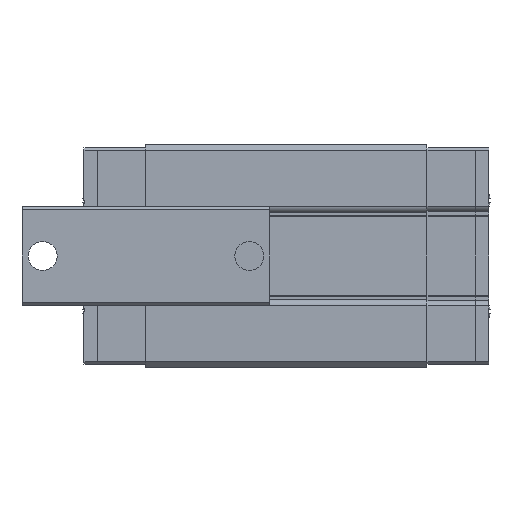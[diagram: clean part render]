
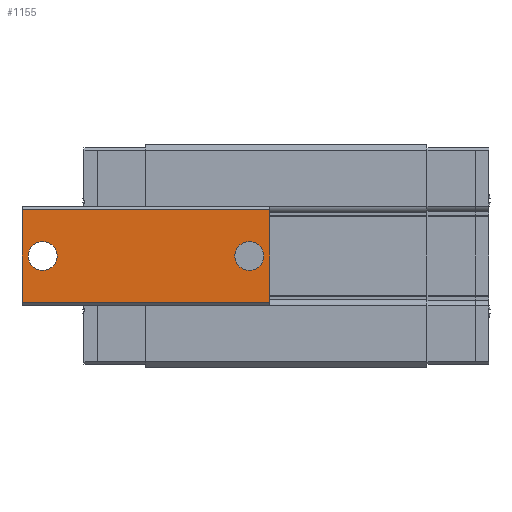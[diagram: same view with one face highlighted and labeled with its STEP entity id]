
A CAD part, front view. The second image highlights one B-rep face of the part: STEP entity #1155.
In plain terms, the highlighted planar face has unit normal (0, -1, 0).
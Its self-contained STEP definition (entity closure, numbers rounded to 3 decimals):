
#1155 = ADVANCED_FACE( '', ( #2340, #2341, #2342 ), #2343, .F. );
#2340 = FACE_BOUND( '', #3576, .T. );
#2341 = FACE_BOUND( '', #3577, .T. );
#2342 = FACE_OUTER_BOUND( '', #3578, .T. );
#2343 = PLANE( '', #3579 );
#3576 = EDGE_LOOP( '', ( #6754 ) );
#3577 = EDGE_LOOP( '', ( #6755 ) );
#3578 = EDGE_LOOP( '', ( #6756, #6757, #6758, #6759 ) );
#3579 = AXIS2_PLACEMENT_3D( '', #6760, #6761, #6762 );
#6754 = ORIENTED_EDGE( '', *, *, #8227, .F. );
#6755 = ORIENTED_EDGE( '', *, *, #8816, .F. );
#6756 = ORIENTED_EDGE( '', *, *, #8737, .T. );
#6757 = ORIENTED_EDGE( '', *, *, #8800, .F. );
#6758 = ORIENTED_EDGE( '', *, *, #8363, .F. );
#6759 = ORIENTED_EDGE( '', *, *, #8537, .T. );
#6760 = CARTESIAN_POINT( '', ( 15., 0., 5.625 ) );
#6761 = DIRECTION( '', ( 0., 1., 0. ) );
#6762 = DIRECTION( '', ( 0., 0., 1. ) );
#8227 = EDGE_CURVE( '', #10169, #10169, #10170, .T. );
#8363 = EDGE_CURVE( '', #10377, #10379, #10380, .T. );
#8537 = EDGE_CURVE( '', #10377, #10623, #10625, .T. );
#8737 = EDGE_CURVE( '', #10623, #10878, #10880, .T. );
#8800 = EDGE_CURVE( '', #10379, #10878, #10951, .T. );
#8816 = EDGE_CURVE( '', #10968, #10968, #10969, .T. );
#10169 = VERTEX_POINT( '', #12819 );
#10170 = CIRCLE( '', #12820, 1.75 );
#10377 = VERTEX_POINT( '', #13110 );
#10379 = VERTEX_POINT( '', #13113 );
#10380 = LINE( '', #13114, #13115 );
#10623 = VERTEX_POINT( '', #13461 );
#10625 = LINE( '', #13464, #13465 );
#10878 = VERTEX_POINT( '', #13829 );
#10880 = LINE( '', #13832, #13833 );
#10951 = LINE( '', #13933, #13934 );
#10968 = VERTEX_POINT( '', #13958 );
#10969 = CIRCLE( '', #13959, 1.75 );
#12819 = CARTESIAN_POINT( '', ( 12.5, 0., -1.75 ) );
#12820 = AXIS2_PLACEMENT_3D( '', #14936, #14937, #14938 );
#13110 = CARTESIAN_POINT( '', ( 15., 0., 5.625 ) );
#13113 = CARTESIAN_POINT( '', ( 15., 0., -5.625 ) );
#13114 = CARTESIAN_POINT( '', ( 15., 0., 5.625 ) );
#13115 = VECTOR( '', #15101, 1000. );
#13461 = CARTESIAN_POINT( '', ( -15., 0., 5.625 ) );
#13464 = CARTESIAN_POINT( '', ( 15., 0., 5.625 ) );
#13465 = VECTOR( '', #15260, 1000. );
#13829 = CARTESIAN_POINT( '', ( -15., 0., -5.625 ) );
#13832 = CARTESIAN_POINT( '', ( -15., 0., 5.625 ) );
#13833 = VECTOR( '', #15430, 1000. );
#13933 = CARTESIAN_POINT( '', ( 15., 0., -5.625 ) );
#13934 = VECTOR( '', #15472, 1000. );
#13958 = CARTESIAN_POINT( '', ( -12.5, 0., -1.75 ) );
#13959 = AXIS2_PLACEMENT_3D( '', #15480, #15481, #15482 );
#14936 = CARTESIAN_POINT( '', ( 12.5, 0., 0. ) );
#14937 = DIRECTION( '', ( 0., -1., 0. ) );
#14938 = DIRECTION( '', ( 0., 0., -1. ) );
#15101 = DIRECTION( '', ( 0., 0., -1. ) );
#15260 = DIRECTION( '', ( -1., 0., 0. ) );
#15430 = DIRECTION( '', ( 0., 0., -1. ) );
#15472 = DIRECTION( '', ( -1., 0., 0. ) );
#15480 = CARTESIAN_POINT( '', ( -12.5, 0., 0. ) );
#15481 = DIRECTION( '', ( 0., -1., 0. ) );
#15482 = DIRECTION( '', ( 0., 0., -1. ) );
